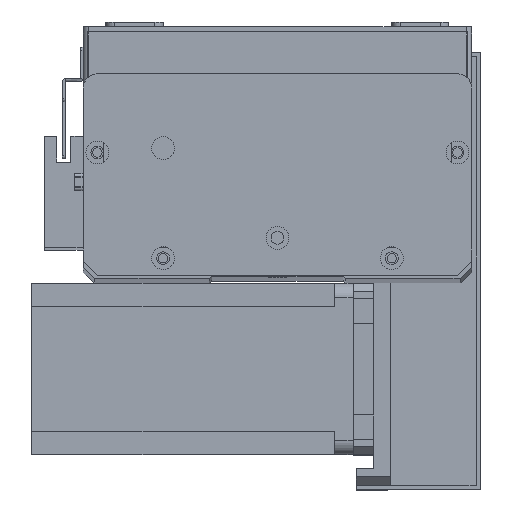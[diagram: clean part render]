
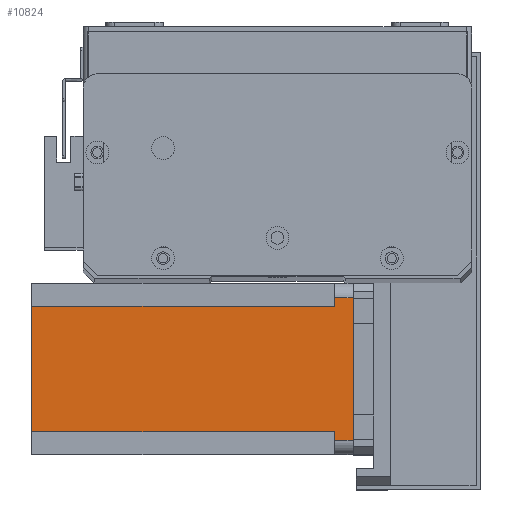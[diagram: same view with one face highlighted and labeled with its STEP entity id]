
A CAD part, top view. The second image highlights one B-rep face of the part: STEP entity #10824.
In plain terms, the highlighted planar face has unit normal (0, 0, 1) as drawn and (0, -1, 0) by its records, which use the part's own axes.
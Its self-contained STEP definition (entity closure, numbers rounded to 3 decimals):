
#223 = VECTOR ( 'NONE', #19011, 1000. ) ;
#688 = LINE ( 'NONE', #20726, #6738 ) ;
#957 = CARTESIAN_POINT ( 'NONE',  ( 55., 0., -6.5 ) ) ;
#970 = ORIENTED_EDGE ( 'NONE', *, *, #23144, .F. ) ;
#1463 = CARTESIAN_POINT ( 'NONE',  ( 5., 0., 0. ) ) ;
#2421 = FACE_OUTER_BOUND ( 'NONE', #26022, .T. ) ;
#2790 = ORIENTED_EDGE ( 'NONE', *, *, #23532, .F. ) ;
#3100 = VERTEX_POINT ( 'NONE', #14314 ) ;
#3383 = LINE ( 'NONE', #28540, #26529 ) ;
#4303 = CARTESIAN_POINT ( 'NONE',  ( 52., 0., -112.5 ) ) ;
#4725 = VERTEX_POINT ( 'NONE', #957 ) ;
#4781 = ORIENTED_EDGE ( 'NONE', *, *, #24072, .T. ) ;
#4915 = VERTEX_POINT ( 'NONE', #5504 ) ;
#5086 = CARTESIAN_POINT ( 'NONE',  ( 55., 0., -112.5 ) ) ;
#5504 = CARTESIAN_POINT ( 'NONE',  ( 52., 0., -6.5 ) ) ;
#6020 = ORIENTED_EDGE ( 'NONE', *, *, #26091, .F. ) ;
#6253 = EDGE_CURVE ( 'NONE', #7137, #11048, #24831, .T. ) ;
#6738 = VECTOR ( 'NONE', #7319, 1000. ) ;
#7137 = VERTEX_POINT ( 'NONE', #1463 ) ;
#7319 = DIRECTION ( 'NONE',  ( 0., 0., -1. ) ) ;
#7948 = VECTOR ( 'NONE', #27569, 1000. ) ;
#7951 = ORIENTED_EDGE ( 'NONE', *, *, #17525, .T. ) ;
#10090 = LINE ( 'NONE', #25565, #22036 ) ;
#10621 = CARTESIAN_POINT ( 'NONE',  ( 55., 0., 0. ) ) ;
#10741 = LINE ( 'NONE', #20888, #7948 ) ;
#10824 = ADVANCED_FACE ( 'NONE', ( #2421 ), #15377, .T. ) ;
#11048 = VERTEX_POINT ( 'NONE', #10621 ) ;
#11147 = ORIENTED_EDGE ( 'NONE', *, *, #16984, .T. ) ;
#13932 = VECTOR ( 'NONE', #17882, 1000. ) ;
#14135 = VECTOR ( 'NONE', #25235, 1000. ) ;
#14314 = CARTESIAN_POINT ( 'NONE',  ( 5., 0., -6.5 ) ) ;
#14562 = CARTESIAN_POINT ( 'NONE',  ( 52., 0., -6.5 ) ) ;
#15123 = DIRECTION ( 'NONE',  ( 0., 0., -1. ) ) ;
#15126 = DIRECTION ( 'NONE',  ( 0., -1., 0. ) ) ;
#15217 = CARTESIAN_POINT ( 'NONE',  ( 0., 0., -112.5 ) ) ;
#15353 = ORIENTED_EDGE ( 'NONE', *, *, #6253, .F. ) ;
#15377 = PLANE ( 'NONE',  #27731 ) ;
#16518 = DIRECTION ( 'NONE',  ( 0., 0., 1. ) ) ;
#16831 = CARTESIAN_POINT ( 'NONE',  ( 8., 0., -6.5 ) ) ;
#16984 = EDGE_CURVE ( 'NONE', #4915, #4725, #27396, .T. ) ;
#17525 = EDGE_CURVE ( 'NONE', #4725, #11048, #20063, .T. ) ;
#17882 = DIRECTION ( 'NONE',  ( 1., 0., 0. ) ) ;
#18072 = EDGE_CURVE ( 'NONE', #7137, #3100, #688, .T. ) ;
#18357 = CARTESIAN_POINT ( 'NONE',  ( 0., 0., 0. ) ) ;
#19011 = DIRECTION ( 'NONE',  ( 1., 0., 0. ) ) ;
#19864 = LINE ( 'NONE', #26731, #13932 ) ;
#20063 = LINE ( 'NONE', #5086, #14135 ) ;
#20726 = CARTESIAN_POINT ( 'NONE',  ( 5., 0., -112.5 ) ) ;
#20888 = CARTESIAN_POINT ( 'NONE',  ( 52., 0., -112.5 ) ) ;
#21207 = DIRECTION ( 'NONE',  ( 1., 0., 0. ) ) ;
#21307 = VERTEX_POINT ( 'NONE', #25973 ) ;
#22028 = DIRECTION ( 'NONE',  ( -1., 0., 0. ) ) ;
#22036 = VECTOR ( 'NONE', #16518, 1000. ) ;
#23144 = EDGE_CURVE ( 'NONE', #28247, #3100, #3383, .T. ) ;
#23532 = EDGE_CURVE ( 'NONE', #21307, #28247, #10090, .T. ) ;
#24064 = ORIENTED_EDGE ( 'NONE', *, *, #18072, .T. ) ;
#24072 = EDGE_CURVE ( 'NONE', #21307, #25848, #19864, .T. ) ;
#24831 = LINE ( 'NONE', #18357, #223 ) ;
#25235 = DIRECTION ( 'NONE',  ( 0., 0., 1. ) ) ;
#25565 = CARTESIAN_POINT ( 'NONE',  ( 8., 0., -112.5 ) ) ;
#25848 = VERTEX_POINT ( 'NONE', #4303 ) ;
#25973 = CARTESIAN_POINT ( 'NONE',  ( 8., 0., -112.5 ) ) ;
#26022 = EDGE_LOOP ( 'NONE', ( #11147, #7951, #15353, #24064, #970, #2790, #4781, #6020 ) ) ;
#26091 = EDGE_CURVE ( 'NONE', #4915, #25848, #10741, .T. ) ;
#26529 = VECTOR ( 'NONE', #22028, 1000. ) ;
#26731 = CARTESIAN_POINT ( 'NONE',  ( 0., 0., -112.5 ) ) ;
#27396 = LINE ( 'NONE', #14562, #28069 ) ;
#27569 = DIRECTION ( 'NONE',  ( 0., 0., -1. ) ) ;
#27731 = AXIS2_PLACEMENT_3D ( 'NONE', #15217, #15126, #15123 ) ;
#28069 = VECTOR ( 'NONE', #21207, 1000. ) ;
#28247 = VERTEX_POINT ( 'NONE', #16831 ) ;
#28540 = CARTESIAN_POINT ( 'NONE',  ( 8., 0., -6.5 ) ) ;
